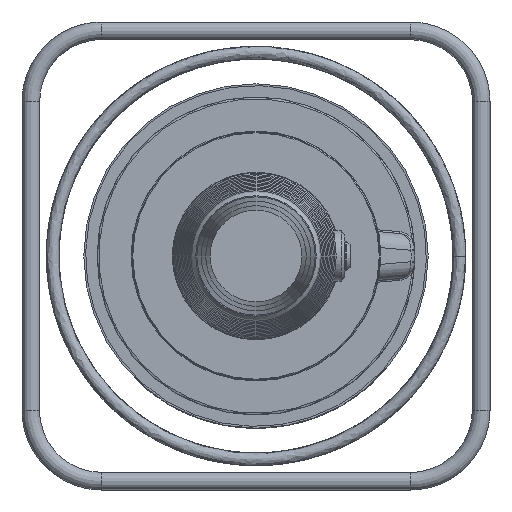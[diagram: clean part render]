
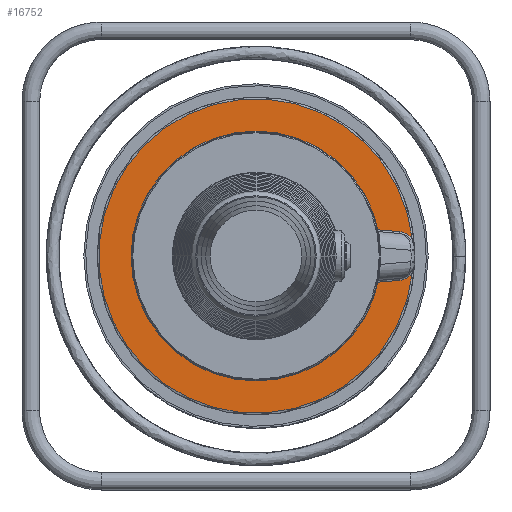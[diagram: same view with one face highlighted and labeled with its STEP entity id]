
A CAD part, left-side view. The second image highlights one B-rep face of the part: STEP entity #16752.
In plain terms, the highlighted planar face has unit normal (-1, 0, 0).
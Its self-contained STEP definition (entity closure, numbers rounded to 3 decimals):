
#2065=LINE('',#34665,#2956);
#2066=LINE('',#34672,#2957);
#2956=VECTOR('',#20811,49.309);
#2957=VECTOR('',#20818,49.309);
#3267=PLANE('',#17823);
#4551=FACE_OUTER_BOUND('',#5668,.T.);
#5668=EDGE_LOOP('',(#14643,#14644,#14645,#14646,#14647,#14648,#14649,#14650));
#6502=CIRCLE('',#17824,21.);
#6503=CIRCLE('',#17825,178.);
#6504=CIRCLE('',#17826,21.);
#6505=CIRCLE('',#17827,8.);
#6506=CIRCLE('',#17828,113.);
#6507=CIRCLE('',#17829,8.);
#8114=VERTEX_POINT('',#34657);
#8115=VERTEX_POINT('',#34658);
#8116=VERTEX_POINT('',#34660);
#8117=VERTEX_POINT('',#34662);
#8118=VERTEX_POINT('',#34664);
#8119=VERTEX_POINT('',#34666);
#8120=VERTEX_POINT('',#34668);
#8121=VERTEX_POINT('',#34670);
#10378=EDGE_CURVE('',#8114,#8115,#6502,.T.);
#10379=EDGE_CURVE('',#8116,#8114,#6503,.T.);
#10380=EDGE_CURVE('',#8117,#8116,#6504,.T.);
#10381=EDGE_CURVE('',#8118,#8117,#2065,.T.);
#10382=EDGE_CURVE('',#8119,#8118,#6505,.T.);
#10383=EDGE_CURVE('',#8120,#8119,#6506,.T.);
#10384=EDGE_CURVE('',#8121,#8120,#6507,.T.);
#10385=EDGE_CURVE('',#8115,#8121,#2066,.T.);
#14643=ORIENTED_EDGE('',*,*,#10378,.F.);
#14644=ORIENTED_EDGE('',*,*,#10379,.F.);
#14645=ORIENTED_EDGE('',*,*,#10380,.F.);
#14646=ORIENTED_EDGE('',*,*,#10381,.F.);
#14647=ORIENTED_EDGE('',*,*,#10382,.F.);
#14648=ORIENTED_EDGE('',*,*,#10383,.F.);
#14649=ORIENTED_EDGE('',*,*,#10384,.F.);
#14650=ORIENTED_EDGE('',*,*,#10385,.F.);
#16752=ADVANCED_FACE('',(#4551),#3267,.T.);
#17823=AXIS2_PLACEMENT_3D('',#34656,#20803,#20804);
#17824=AXIS2_PLACEMENT_3D('',#34659,#20805,#20806);
#17825=AXIS2_PLACEMENT_3D('',#34661,#20807,#20808);
#17826=AXIS2_PLACEMENT_3D('',#34663,#20809,#20810);
#17827=AXIS2_PLACEMENT_3D('',#34667,#20812,#20813);
#17828=AXIS2_PLACEMENT_3D('',#34669,#20814,#20815);
#17829=AXIS2_PLACEMENT_3D('',#34671,#20816,#20817);
#20803=DIRECTION('center_axis',(-1.,0.,0.));
#20804=DIRECTION('ref_axis',(0.,0.,-1.));
#20805=DIRECTION('center_axis',(-1.,0.,0.));
#20806=DIRECTION('ref_axis',(0.,-0.535,0.845));
#20807=DIRECTION('center_axis',(1.,0.,0.));
#20808=DIRECTION('ref_axis',(0.,1.,0.));
#20809=DIRECTION('center_axis',(-1.,0.,0.));
#20810=DIRECTION('ref_axis',(0.,-0.535,-0.845));
#20811=DIRECTION('',(0.,-0.996,0.087));
#20812=DIRECTION('center_axis',(1.,0.,0.));
#20813=DIRECTION('ref_axis',(0.,0.614,0.789));
#20814=DIRECTION('center_axis',(-1.,0.,0.));
#20815=DIRECTION('ref_axis',(0.,1.,0.));
#20816=DIRECTION('center_axis',(1.,0.,0.));
#20817=DIRECTION('ref_axis',(0.,0.614,-0.789));
#20818=DIRECTION('',(0.,0.996,0.087));
#34656=CARTESIAN_POINT('Origin',(-155.,179.,0.));
#34657=CARTESIAN_POINT('',(-155.,-176.847,20.223));
#34658=CARTESIAN_POINT('',(-155.,-162.695,27.522));
#34659=CARTESIAN_POINT('Origin',(-155.,-160.865,6.602));
#34660=CARTESIAN_POINT('',(-155.,-176.847,-20.223));
#34661=CARTESIAN_POINT('Origin',(-155.,0.,
0.));
#34662=CARTESIAN_POINT('',(-155.,-162.695,-27.522));
#34663=CARTESIAN_POINT('Origin',(-155.,-160.865,-6.602));
#34664=CARTESIAN_POINT('',(-155.,-113.574,-31.819));
#34665=CARTESIAN_POINT('',(-155.,20.898,-43.584));
#34666=CARTESIAN_POINT('',(-155.,-106.716,-37.158));
#34667=CARTESIAN_POINT('Origin',(-155.,-114.271,-39.789));
#34668=CARTESIAN_POINT('',(-155.,-106.716,37.158));
#34669=CARTESIAN_POINT('Origin',(-155.,0.,
0.));
#34670=CARTESIAN_POINT('',(-155.,-113.574,31.819));
#34671=CARTESIAN_POINT('Origin',(-155.,-114.271,39.789));
#34672=CARTESIAN_POINT('',(-155.,20.898,43.584));
